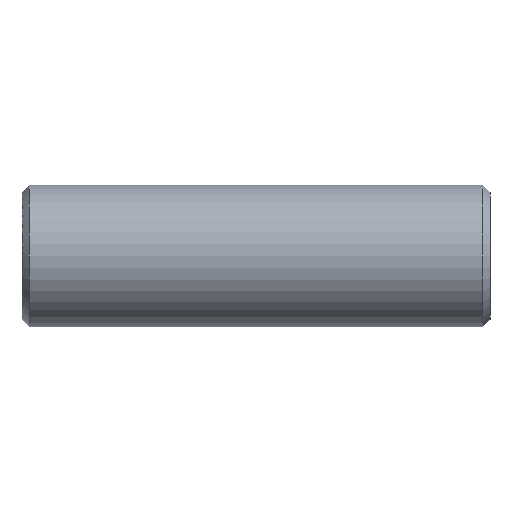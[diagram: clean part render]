
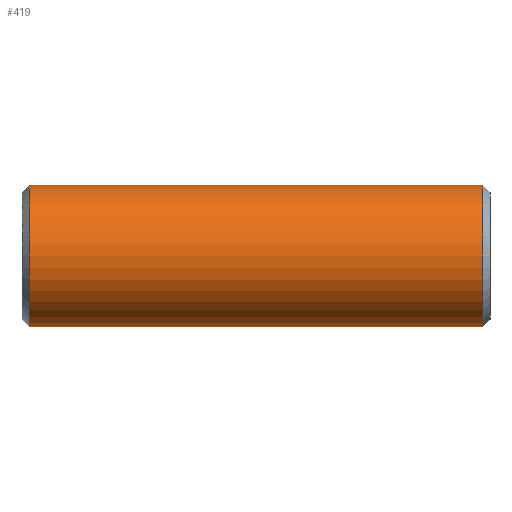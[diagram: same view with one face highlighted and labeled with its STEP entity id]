
A CAD part, front view. The second image highlights one B-rep face of the part: STEP entity #419.
In plain terms, the highlighted cylindrical face has radius 10 mm (diameter 20 mm), a partial arc.
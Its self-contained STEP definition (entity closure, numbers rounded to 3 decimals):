
#231=CARTESIAN_POINT('Vertex',(1.,0.,-10.)) ;
#238=CARTESIAN_POINT('Vertex',(1.,0.,10.)) ;
#267=CARTESIAN_POINT('Axis2P3D Location',(1.,0.,0.)) ;
#271=CARTESIAN_POINT('Vertex',(1.,-10.,0.)) ;
#274=CARTESIAN_POINT('Axis2P3D Location',(1.,0.,0.)) ;
#359=CARTESIAN_POINT('Line Origine',(66.,0.,10.)) ;
#363=CARTESIAN_POINT('Vertex',(65.,0.,10.)) ;
#377=CARTESIAN_POINT('Vertex',(65.,0.,-10.)) ;
#380=CARTESIAN_POINT('Line Origine',(66.,0.,-10.)) ;
#394=CARTESIAN_POINT('Axis2P3D Location',(66.,0.,0.)) ;
#399=CARTESIAN_POINT('Axis2P3D Location',(65.,0.,0.)) ;
#403=CARTESIAN_POINT('Vertex',(65.,-10.,0.)) ;
#406=CARTESIAN_POINT('Axis2P3D Location',(65.,0.,0.)) ;
#268=DIRECTION('Axis2P3D Direction',(1.,0.,-0.)) ;
#275=DIRECTION('Axis2P3D Direction',(1.,0.,-0.)) ;
#360=DIRECTION('Vector Direction',(-1.,0.,0.)) ;
#381=DIRECTION('Vector Direction',(-1.,0.,0.)) ;
#395=DIRECTION('Axis2P3D Direction',(-1.,-0.,-0.)) ;
#396=DIRECTION('Axis2P3D XDirection',(0.,0.,-1.)) ;
#400=DIRECTION('Axis2P3D Direction',(-1.,-0.,-0.)) ;
#407=DIRECTION('Axis2P3D Direction',(-1.,-0.,-0.)) ;
#269=AXIS2_PLACEMENT_3D('Circle Axis2P3D',#267,#268,$) ;
#276=AXIS2_PLACEMENT_3D('Circle Axis2P3D',#274,#275,$) ;
#397=AXIS2_PLACEMENT_3D('Cylinder Axis2P3D',#394,#395,#396) ;
#401=AXIS2_PLACEMENT_3D('Circle Axis2P3D',#399,#400,$) ;
#408=AXIS2_PLACEMENT_3D('Circle Axis2P3D',#406,#407,$) ;
#412=ORIENTED_EDGE('',*,*,#384,.T.) ;
#413=ORIENTED_EDGE('',*,*,#405,.F.) ;
#414=ORIENTED_EDGE('',*,*,#410,.F.) ;
#415=ORIENTED_EDGE('',*,*,#365,.T.) ;
#416=ORIENTED_EDGE('',*,*,#278,.T.) ;
#417=ORIENTED_EDGE('',*,*,#273,.T.) ;
#361=VECTOR('Line Direction',#360,1.) ;
#382=VECTOR('Line Direction',#381,1.) ;
#419=ADVANCED_FACE('352-14X66',(#418),#398,.T.) ;
#270=CIRCLE('generated circle',#269,10.) ;
#277=CIRCLE('generated circle',#276,10.) ;
#402=CIRCLE('generated circle',#401,10.) ;
#409=CIRCLE('generated circle',#408,10.) ;
#398=CYLINDRICAL_SURFACE('generated cylinder',#397,10.) ;
#273=EDGE_CURVE('',#272,#232,#270,.T.) ;
#278=EDGE_CURVE('',#239,#272,#277,.T.) ;
#365=EDGE_CURVE('',#364,#239,#362,.T.) ;
#384=EDGE_CURVE('',#232,#378,#383,.F.) ;
#405=EDGE_CURVE('',#404,#378,#402,.F.) ;
#410=EDGE_CURVE('',#364,#404,#409,.F.) ;
#411=EDGE_LOOP('',(#412,#413,#414,#415,#416,#417)) ;
#418=FACE_OUTER_BOUND('',#411,.T.) ;
#362=LINE('Line',#359,#361) ;
#383=LINE('Line',#380,#382) ;
#232=VERTEX_POINT('',#231) ;
#239=VERTEX_POINT('',#238) ;
#272=VERTEX_POINT('',#271) ;
#364=VERTEX_POINT('',#363) ;
#378=VERTEX_POINT('',#377) ;
#404=VERTEX_POINT('',#403) ;
